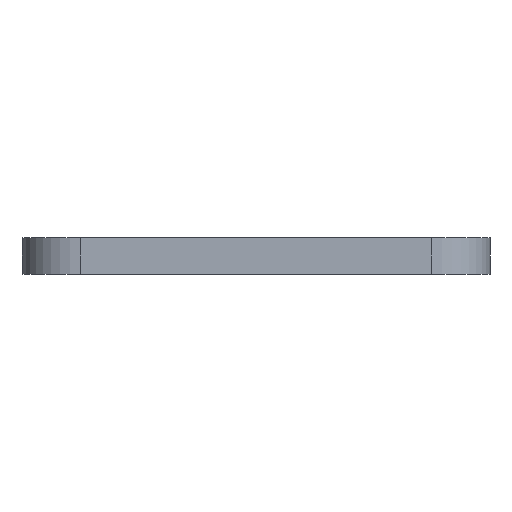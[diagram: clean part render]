
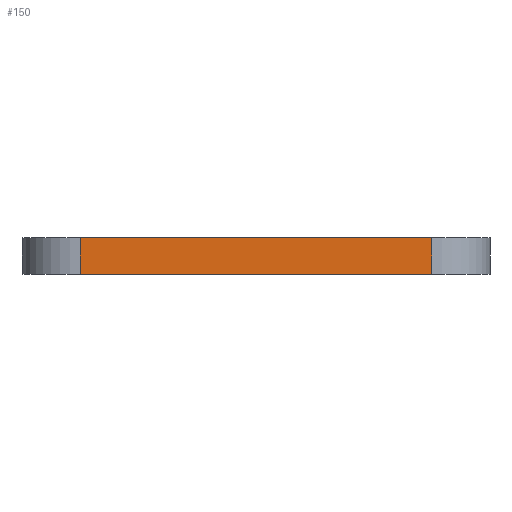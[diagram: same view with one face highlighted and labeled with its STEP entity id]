
A CAD part, front view. The second image highlights one B-rep face of the part: STEP entity #150.
In plain terms, the highlighted planar face has unit normal (0, -1, 0).
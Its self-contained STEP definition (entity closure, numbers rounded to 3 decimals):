
#32 = EDGE_CURVE('',#33,#35,#37,.T.);
#33 = VERTEX_POINT('',#34);
#34 = CARTESIAN_POINT('',(149.86,-116.84,0.));
#35 = VERTEX_POINT('',#36);
#36 = CARTESIAN_POINT('',(149.86,-116.84,1.6));
#37 = SURFACE_CURVE('',#38,(#42,#54),.PCURVE_S1.);
#38 = LINE('',#39,#40);
#39 = CARTESIAN_POINT('',(149.86,-116.84,0.));
#40 = VECTOR('',#41,1.);
#41 = DIRECTION('',(0.,0.,1.));
#42 = PCURVE('',#43,#48);
#43 = CYLINDRICAL_SURFACE('',#44,2.54);
#44 = AXIS2_PLACEMENT_3D('',#45,#46,#47);
#45 = CARTESIAN_POINT('',(149.86,-114.3,0.));
#46 = DIRECTION('',(-0.,-0.,-1.));
#47 = DIRECTION('',(1.,0.,-0.));
#48 = DEFINITIONAL_REPRESENTATION('',(#49),#53);
#49 = LINE('',#50,#51);
#50 = CARTESIAN_POINT('',(-4.712,0.));
#51 = VECTOR('',#52,1.);
#52 = DIRECTION('',(-0.,-1.));
#53 = ( GEOMETRIC_REPRESENTATION_CONTEXT(2) 
PARAMETRIC_REPRESENTATION_CONTEXT() REPRESENTATION_CONTEXT('2D SPACE',''
  ) );
#54 = PCURVE('',#55,#60);
#55 = PLANE('',#56);
#56 = AXIS2_PLACEMENT_3D('',#57,#58,#59);
#57 = CARTESIAN_POINT('',(149.86,-116.84,0.));
#58 = DIRECTION('',(0.,-1.,0.));
#59 = DIRECTION('',(-1.,0.,0.));
#60 = DEFINITIONAL_REPRESENTATION('',(#61),#65);
#61 = LINE('',#62,#63);
#62 = CARTESIAN_POINT('',(0.,0.));
#63 = VECTOR('',#64,1.);
#64 = DIRECTION('',(0.,-1.));
#65 = ( GEOMETRIC_REPRESENTATION_CONTEXT(2) 
PARAMETRIC_REPRESENTATION_CONTEXT() REPRESENTATION_CONTEXT('2D SPACE',''
  ) );
#84 = PLANE('',#85);
#85 = AXIS2_PLACEMENT_3D('',#86,#87,#88);
#86 = CARTESIAN_POINT('',(142.24,-83.82,1.6));
#87 = DIRECTION('',(0.,0.,1.));
#88 = DIRECTION('',(1.,0.,-0.));
#139 = PLANE('',#140);
#140 = AXIS2_PLACEMENT_3D('',#141,#142,#143);
#141 = CARTESIAN_POINT('',(142.24,-83.82,0.));
#142 = DIRECTION('',(0.,0.,1.));
#143 = DIRECTION('',(1.,0.,-0.));
#150 = ADVANCED_FACE('',(#151),#55,.T.);
#151 = FACE_BOUND('',#152,.T.);
#152 = EDGE_LOOP('',(#153,#154,#177,#205));
#153 = ORIENTED_EDGE('',*,*,#32,.T.);
#154 = ORIENTED_EDGE('',*,*,#155,.T.);
#155 = EDGE_CURVE('',#35,#156,#158,.T.);
#156 = VERTEX_POINT('',#157);
#157 = CARTESIAN_POINT('',(134.62,-116.84,1.6));
#158 = SURFACE_CURVE('',#159,(#163,#170),.PCURVE_S1.);
#159 = LINE('',#160,#161);
#160 = CARTESIAN_POINT('',(149.86,-116.84,1.6));
#161 = VECTOR('',#162,1.);
#162 = DIRECTION('',(-1.,0.,0.));
#163 = PCURVE('',#55,#164);
#164 = DEFINITIONAL_REPRESENTATION('',(#165),#169);
#165 = LINE('',#166,#167);
#166 = CARTESIAN_POINT('',(0.,-1.6));
#167 = VECTOR('',#168,1.);
#168 = DIRECTION('',(1.,0.));
#169 = ( GEOMETRIC_REPRESENTATION_CONTEXT(2) 
PARAMETRIC_REPRESENTATION_CONTEXT() REPRESENTATION_CONTEXT('2D SPACE',''
  ) );
#170 = PCURVE('',#84,#171);
#171 = DEFINITIONAL_REPRESENTATION('',(#172),#176);
#172 = LINE('',#173,#174);
#173 = CARTESIAN_POINT('',(7.62,-33.02));
#174 = VECTOR('',#175,1.);
#175 = DIRECTION('',(-1.,0.));
#176 = ( GEOMETRIC_REPRESENTATION_CONTEXT(2) 
PARAMETRIC_REPRESENTATION_CONTEXT() REPRESENTATION_CONTEXT('2D SPACE',''
  ) );
#177 = ORIENTED_EDGE('',*,*,#178,.F.);
#178 = EDGE_CURVE('',#179,#156,#181,.T.);
#179 = VERTEX_POINT('',#180);
#180 = CARTESIAN_POINT('',(134.62,-116.84,0.));
#181 = SURFACE_CURVE('',#182,(#186,#193),.PCURVE_S1.);
#182 = LINE('',#183,#184);
#183 = CARTESIAN_POINT('',(134.62,-116.84,0.));
#184 = VECTOR('',#185,1.);
#185 = DIRECTION('',(0.,0.,1.));
#186 = PCURVE('',#55,#187);
#187 = DEFINITIONAL_REPRESENTATION('',(#188),#192);
#188 = LINE('',#189,#190);
#189 = CARTESIAN_POINT('',(15.24,0.));
#190 = VECTOR('',#191,1.);
#191 = DIRECTION('',(0.,-1.));
#192 = ( GEOMETRIC_REPRESENTATION_CONTEXT(2) 
PARAMETRIC_REPRESENTATION_CONTEXT() REPRESENTATION_CONTEXT('2D SPACE',''
  ) );
#193 = PCURVE('',#194,#199);
#194 = CYLINDRICAL_SURFACE('',#195,2.54);
#195 = AXIS2_PLACEMENT_3D('',#196,#197,#198);
#196 = CARTESIAN_POINT('',(134.62,-114.3,0.));
#197 = DIRECTION('',(-0.,-0.,-1.));
#198 = DIRECTION('',(1.,0.,-0.));
#199 = DEFINITIONAL_REPRESENTATION('',(#200),#204);
#200 = LINE('',#201,#202);
#201 = CARTESIAN_POINT('',(-4.712,0.));
#202 = VECTOR('',#203,1.);
#203 = DIRECTION('',(-0.,-1.));
#204 = ( GEOMETRIC_REPRESENTATION_CONTEXT(2) 
PARAMETRIC_REPRESENTATION_CONTEXT() REPRESENTATION_CONTEXT('2D SPACE',''
  ) );
#205 = ORIENTED_EDGE('',*,*,#206,.F.);
#206 = EDGE_CURVE('',#33,#179,#207,.T.);
#207 = SURFACE_CURVE('',#208,(#212,#219),.PCURVE_S1.);
#208 = LINE('',#209,#210);
#209 = CARTESIAN_POINT('',(149.86,-116.84,0.));
#210 = VECTOR('',#211,1.);
#211 = DIRECTION('',(-1.,0.,0.));
#212 = PCURVE('',#55,#213);
#213 = DEFINITIONAL_REPRESENTATION('',(#214),#218);
#214 = LINE('',#215,#216);
#215 = CARTESIAN_POINT('',(0.,0.));
#216 = VECTOR('',#217,1.);
#217 = DIRECTION('',(1.,0.));
#218 = ( GEOMETRIC_REPRESENTATION_CONTEXT(2) 
PARAMETRIC_REPRESENTATION_CONTEXT() REPRESENTATION_CONTEXT('2D SPACE',''
  ) );
#219 = PCURVE('',#139,#220);
#220 = DEFINITIONAL_REPRESENTATION('',(#221),#225);
#221 = LINE('',#222,#223);
#222 = CARTESIAN_POINT('',(7.62,-33.02));
#223 = VECTOR('',#224,1.);
#224 = DIRECTION('',(-1.,0.));
#225 = ( GEOMETRIC_REPRESENTATION_CONTEXT(2) 
PARAMETRIC_REPRESENTATION_CONTEXT() REPRESENTATION_CONTEXT('2D SPACE',''
  ) );
